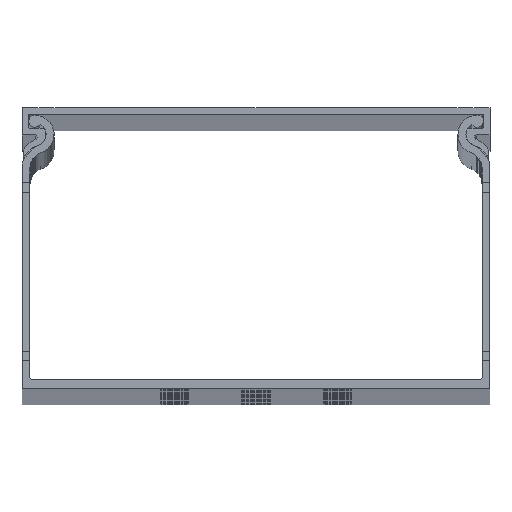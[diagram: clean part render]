
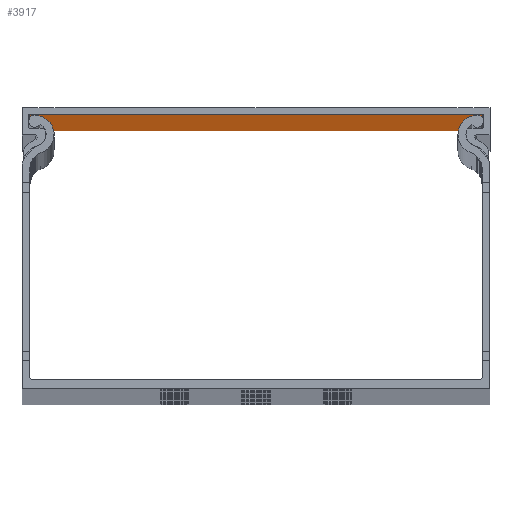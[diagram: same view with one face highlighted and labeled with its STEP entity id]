
A CAD part, top view. The second image highlights one B-rep face of the part: STEP entity #3917.
In plain terms, the highlighted planar face has unit normal (0, -1, 0).
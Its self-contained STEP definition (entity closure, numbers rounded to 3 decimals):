
#3138 = VERTEX_POINT ( 'NONE', #62015 ) ;
#3917 = ADVANCED_FACE ( 'NONE', ( #42855 ), #12989, .F. ) ;
#8467 = ORIENTED_EDGE ( 'NONE', *, *, #82869, .T. ) ;
#12989 = PLANE ( 'NONE',  #29902 ) ;
#13719 = DIRECTION ( 'NONE',  ( 0., 0., 1. ) ) ;
#14374 = CARTESIAN_POINT ( 'NONE',  ( 2520.007, 1295.656, 2000. ) ) ;
#14709 = VECTOR ( 'NONE', #77091, 1000. ) ;
#20444 = CARTESIAN_POINT ( 'NONE',  ( 2568.407, 1295.656, 0. ) ) ;
#23442 = ORIENTED_EDGE ( 'NONE', *, *, #91706, .T. ) ;
#28678 = DIRECTION ( 'NONE',  ( 1., 0., 0. ) ) ;
#29902 = AXIS2_PLACEMENT_3D ( 'NONE', #47917, #64841, #13719 ) ;
#32591 = VERTEX_POINT ( 'NONE', #14374 ) ;
#36311 = VERTEX_POINT ( 'NONE', #97126 ) ;
#38750 = DIRECTION ( 'NONE',  ( 0., 0., -1. ) ) ;
#39176 = LINE ( 'NONE', #20444, #91499 ) ;
#39445 = LINE ( 'NONE', #97677, #42143 ) ;
#42066 = LINE ( 'NONE', #104868, #56792 ) ;
#42143 = VECTOR ( 'NONE', #38750, 1000. ) ;
#42855 = FACE_OUTER_BOUND ( 'NONE', #102423, .T. ) ;
#43149 = ORIENTED_EDGE ( 'NONE', *, *, #103181, .F. ) ;
#47917 = CARTESIAN_POINT ( 'NONE',  ( 2568.407, 1295.656, 2000. ) ) ;
#56792 = VECTOR ( 'NONE', #61720, 1000. ) ;
#60413 = LINE ( 'NONE', #77858, #14709 ) ;
#61720 = DIRECTION ( 'NONE',  ( 1., 0., 0. ) ) ;
#62015 = CARTESIAN_POINT ( 'NONE',  ( 2616.807, 1295.656, 2000. ) ) ;
#62317 = EDGE_CURVE ( 'NONE', #32591, #3138, #42066, .T. ) ;
#64841 = DIRECTION ( 'NONE',  ( 0., 1., 0. ) ) ;
#65560 = ORIENTED_EDGE ( 'NONE', *, *, #62317, .F. ) ;
#67720 = CARTESIAN_POINT ( 'NONE',  ( 2520.007, 1295.656, 0. ) ) ;
#73517 = VERTEX_POINT ( 'NONE', #67720 ) ;
#77091 = DIRECTION ( 'NONE',  ( 0., 0., -1. ) ) ;
#77858 = CARTESIAN_POINT ( 'NONE',  ( 2520.007, 1295.656, 2000. ) ) ;
#82869 = EDGE_CURVE ( 'NONE', #32591, #73517, #60413, .T. ) ;
#91499 = VECTOR ( 'NONE', #28678, 1000. ) ;
#91706 = EDGE_CURVE ( 'NONE', #73517, #36311, #39176, .T. ) ;
#97126 = CARTESIAN_POINT ( 'NONE',  ( 2616.807, 1295.656, 0. ) ) ;
#97677 = CARTESIAN_POINT ( 'NONE',  ( 2616.807, 1295.656, 2000. ) ) ;
#102423 = EDGE_LOOP ( 'NONE', ( #23442, #43149, #65560, #8467 ) ) ;
#103181 = EDGE_CURVE ( 'NONE', #3138, #36311, #39445, .T. ) ;
#104868 = CARTESIAN_POINT ( 'NONE',  ( 2568.407, 1295.656, 2000. ) ) ;
